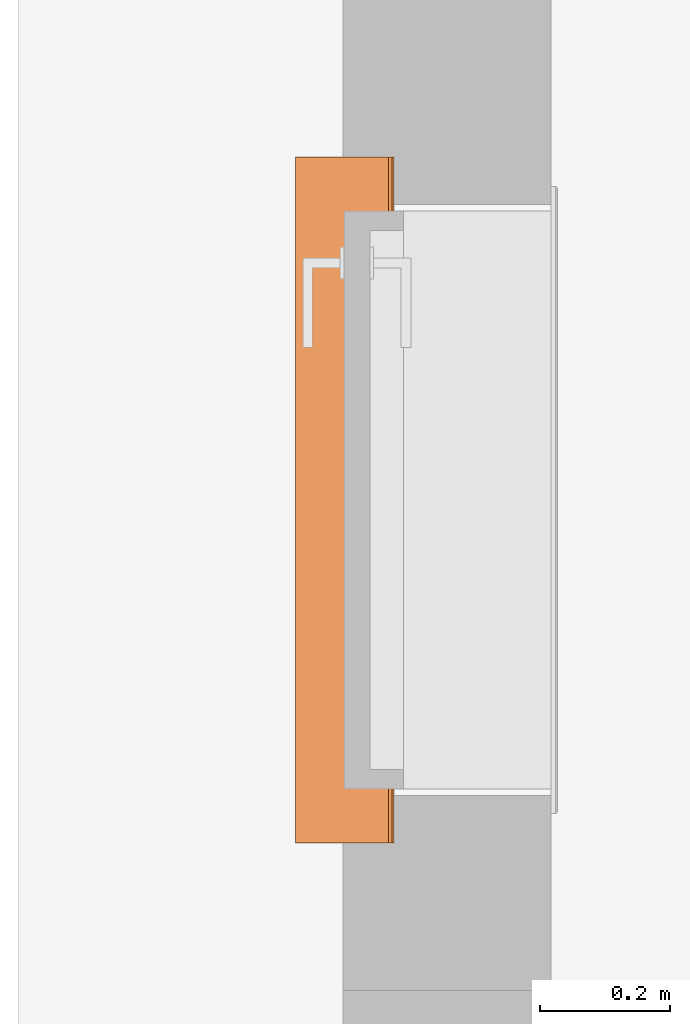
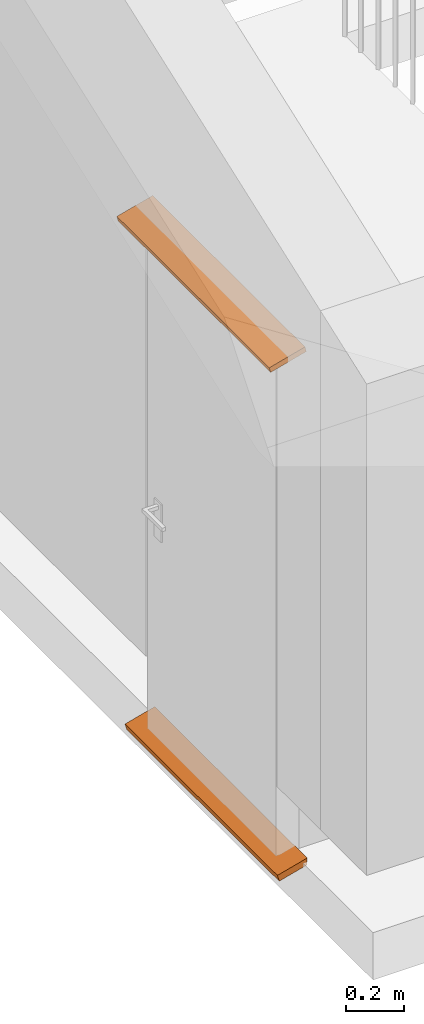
# One storey, part 3 of 3: 1 proxy.
"""IFC2X3 building model written with IfcOpenShell, lengths in millimetres."""

import ifcopenshell
import ifcopenshell.guid

model = None  # the IFC model being written
_history = None  # IfcOwnerHistory: only IFC2X3 demands one
_inside = {}  # id of a spatial element -> (the spatial element, [elements in it])
_under = {}  # id of a project, library or spatial element -> (it, [spatial elements below it])
_declared = {}  # id of a project -> (the project, [libraries it declares])
_typed = {}  # id of a type object -> (the type object, [elements of that type])
_made_of = {}  # id of a material, layer set ... -> (it, [elements and type objects made of it])


def new_model(schema):
    """Start an empty IFC model of exactly this schema.

    Asked for "IFC4X3", IfcOpenShell would pick the latest addendum, in which some entities
    have other attributes; the version numbers below select the first issue.
    IFC2X3 requires an IfcOwnerHistory on every rooted entity: one is made here for all.
    """
    global model, _history
    if schema == "IFC4X3":
        model = ifcopenshell.file(schema_version=(4, 3, 0, 0))
    else:
        model = ifcopenshell.file(schema=schema)
    _inside.clear()
    _under.clear()
    _declared.clear()
    _typed.clear()
    _made_of.clear()
    _history = None
    if model.schema == "IFC2X3":
        org = make("IfcOrganization", Name="unknown")
        user = make(
            "IfcPersonAndOrganization",
            ThePerson=make("IfcPerson", FamilyName="unknown"),
            TheOrganization=org,
        )
        app = make(
            "IfcApplication",
            ApplicationDeveloper=org,
            Version="unknown",
            ApplicationFullName="unknown",
            ApplicationIdentifier="unknown",
        )
        _history = make(
            "IfcOwnerHistory",
            OwningUser=user,
            OwningApplication=app,
            ChangeAction="ADDED",
            CreationDate=0,
        )
    return model


def make(cls, **values):
    """One entity of the class cls with the attributes given. An attribute that is None is left unset."""
    return model.create_entity(
        cls, **{name: value for name, value in values.items() if value is not None}
    )


def entity(cls, *values):
    """Any entity or typed value of the class cls, its attributes in the order of the schema. None: left unset."""
    e = model.create_entity(cls)
    for i, value in enumerate(values):
        if value is not None:
            e[i] = value
    return e


def rooted(cls, **values):
    """An entity with a GlobalId (a new one), such as an element, a storey or a relation."""
    return make(cls, GlobalId=ifcopenshell.guid.new(), OwnerHistory=_history, **values)


def si_unit(unit_type, name, prefix=None):
    """IfcSIUnit, for example si_unit("LENGTHUNIT", "METRE", prefix="MILLI")."""
    return make("IfcSIUnit", UnitType=unit_type, Prefix=prefix, Name=name)


def converted_unit(unit_type, name, factor, base, dimensions=None, offset=None):
    """IfcConversionBasedUnit, such as the inch: factor (a typed value) times the base unit."""
    return make(
        "IfcConversionBasedUnit"
        if offset is None
        else "IfcConversionBasedUnitWithOffset",
        ConversionOffset=offset,
        Dimensions=None
        if dimensions is None
        else entity("IfcDimensionalExponents", *dimensions),
        UnitType=unit_type,
        Name=name,
        ConversionFactor=make(
            "IfcMeasureWithUnit", ValueComponent=factor, UnitComponent=base
        ),
    )


def derived_unit(unit_type, elements):
    """IfcDerivedUnit: a product of units, each with its exponent."""
    return make(
        "IfcDerivedUnit",
        Elements=[
            make("IfcDerivedUnitElement", Unit=unit, Exponent=power)
            for unit, power in elements
        ],
        UnitType=unit_type,
    )


def assignment(units):
    """IfcUnitAssignment: the units of a project."""
    return None if units is None else make("IfcUnitAssignment", Units=units)


def point(xyz):
    """IfcCartesianPoint."""
    return None if xyz is None else make("IfcCartesianPoint", Coordinates=xyz)


def direction(xyz):
    """IfcDirection."""
    return None if xyz is None else make("IfcDirection", DirectionRatios=xyz)


def frame(location, z_axis=None, x_axis=None):
    """IfcAxis2Placement3D, a coordinate frame: its origin and axes. An axis left out is left unset."""
    return make(
        "IfcAxis2Placement3D",
        Location=point(location),
        Axis=direction(z_axis),
        RefDirection=direction(x_axis),
    )


def frame_2d(location, x_axis=None):
    """IfcAxis2Placement2D, a coordinate frame in the plane: its origin and x axis."""
    return make(
        "IfcAxis2Placement2D", Location=point(location), RefDirection=direction(x_axis)
    )


def origin():
    """The frame at (0, 0, 0) with its axes left unset."""
    return frame((0.0, 0.0, 0.0))


def place(relative_to, where):
    """IfcLocalPlacement: puts the frame where relative to a parent placement (None: the world)."""
    return make(
        "IfcLocalPlacement", PlacementRelTo=relative_to, RelativePlacement=where
    )


def context(
    kind, dimensions, precision=None, world=None, true_north=None, identifier=None
):
    """IfcGeometricRepresentationContext, for example the 3D "Model" context."""
    return make(
        "IfcGeometricRepresentationContext",
        ContextIdentifier=identifier,
        ContextType=kind,
        CoordinateSpaceDimension=dimensions,
        Precision=precision,
        WorldCoordinateSystem=world,
        TrueNorth=true_north,
    )


def subcontext(parent, identifier, kind, view, scale=None):
    """IfcGeometricRepresentationSubContext, for example "Body" below "Model"."""
    return make(
        "IfcGeometricRepresentationSubContext",
        ContextIdentifier=identifier,
        ContextType=kind,
        ParentContext=parent,
        TargetScale=scale,
        TargetView=view,
    )


def project(units=None, contexts=None):
    """IfcProject with its units and contexts."""
    return rooted(
        "IfcProject",
        Name="project",
        RepresentationContexts=contexts,
        UnitsInContext=assignment(units),
    )


def spatial(cls, under=None, at=None, **own):
    """A site, building, storey or space (cls), placed at a placement, below another one or the project."""
    s = rooted(cls, ObjectPlacement=at, **own)
    if under is not None:
        _under.setdefault(under.id(), (under, []))[1].append(s)
    return s


def polyline(points):
    """IfcPolyline through the points."""
    return make("IfcPolyline", Points=[point(p) for p in points])


def profile(cls, at=None, kind="AREA", **sizes):
    """A parametric profile (cls). Its sizes go by their IFC names, for example OverallWidth=200.0."""
    return make(cls, ProfileType=kind, Position=at, **sizes)


def rectangle(**sizes):
    """IfcRectangleProfileDef."""
    return profile("IfcRectangleProfileDef", **sizes)


def outline(outer, holes=None, kind="AREA"):
    """IfcArbitraryClosedProfileDef: a profile drawn as a closed curve; with holes, ...WithVoids."""
    if holes is None:
        return make("IfcArbitraryClosedProfileDef", ProfileType=kind, OuterCurve=outer)
    return make(
        "IfcArbitraryProfileDefWithVoids",
        ProfileType=kind,
        OuterCurve=outer,
        InnerCurves=holes,
    )


def extrude(swept, where, along, depth):
    """IfcExtrudedAreaSolid: the profile swept, set in the frame where, extruded along a direction by depth."""
    return make(
        "IfcExtrudedAreaSolid",
        SweptArea=swept,
        Position=where,
        ExtrudedDirection=direction(along),
        Depth=depth,
    )


def shape(context_of_items, identifier, shape_type, items):
    """IfcShapeRepresentation: the items that make up one representation, for example the "Body"."""
    return make(
        "IfcShapeRepresentation",
        ContextOfItems=context_of_items,
        RepresentationIdentifier=identifier,
        RepresentationType=shape_type,
        Items=items,
    )


def source(mapping_origin, context_of_items, identifier, shape_type, items):
    """IfcRepresentationMap: a shape defined once, which mapped items show again and again."""
    return make(
        "IfcRepresentationMap",
        MappingOrigin=mapping_origin,
        MappedRepresentation=shape(context_of_items, identifier, shape_type, items),
    )


def transform(
    local_origin,
    x_axis=None,
    y_axis=None,
    z_axis=None,
    scale=None,
    scale2=None,
    scale3=None,
    uniform=True,
):
    """IfcCartesianTransformationOperator3D, or its non-uniform kind. x_axis, y_axis, z_axis: its Axis1, 2, 3."""
    if uniform:
        return make(
            "IfcCartesianTransformationOperator3D",
            Axis1=direction(x_axis),
            Axis2=direction(y_axis),
            LocalOrigin=point(local_origin),
            Scale=scale,
            Axis3=direction(z_axis),
        )
    return make(
        "IfcCartesianTransformationOperator3DnonUniform",
        Axis1=direction(x_axis),
        Axis2=direction(y_axis),
        LocalOrigin=point(local_origin),
        Scale=scale,
        Axis3=direction(z_axis),
        Scale2=scale2,
        Scale3=scale3,
    )


def mapped(mapping_source, mapping_target):
    """IfcMappedItem: shows the shape of a source again, moved by a transform."""
    return make(
        "IfcMappedItem", MappingSource=mapping_source, MappingTarget=mapping_target
    )


def material(Name=None, Category=None):
    """IfcMaterial."""
    return make("IfcMaterial", Name=Name, Category=Category)


def made_of(thing, what):
    """Note that an element or type object is made of a material, layer set ...; save() writes the relation."""
    if what is not None:
        _made_of.setdefault(what.id(), (what, []))[1].append(thing)
    return thing


def type_object(cls, material=None, **own):
    """A type object (cls), such as IfcWallType, which elements share."""
    return made_of(rooted(cls, **own), material)


def type_shapes(of_type, sources):
    """Give a type object the sources (RepresentationMaps) that its elements show as mapped items."""
    of_type.RepresentationMaps = sources


def element(
    cls,
    number,
    at=None,
    inside=None,
    cuts=None,
    type_object=None,
    material=None,
    context=None,
    identifier="Body",
    shape_type=None,
    held_by="IfcProductDefinitionShape",
    body=None,
    shapes=None,
    **own,
):
    """One element of the class cls, such as IfcWall. Its Tag is "e" and its number.

    at: its placement. inside: the storey or other place that contains it. cuts: it is an
    opening in that element (IfcRelVoidsElement). A single representation is given by context,
    identifier, shape_type and body (its items); several are given by shapes. held_by: the class
    of the entity that holds the representations. save() writes the other relations.
    """
    e = rooted(cls, Tag="e%d" % number, ObjectPlacement=at, **own)
    if body is not None:
        shapes = [shape(context, identifier, shape_type, body)]
    if shapes is not None:
        e.Representation = make(held_by, Representations=shapes)
    if inside is not None:
        _inside.setdefault(inside.id(), (inside, []))[1].append(e)
    if cuts is not None:
        rooted(
            "IfcRelVoidsElement", RelatingBuildingElement=cuts, RelatedOpeningElement=e
        )
    if type_object is not None:
        _typed.setdefault(type_object.id(), (type_object, []))[1].append(e)
    return made_of(e, material)


def aggregate(whole, parts):
    """IfcRelAggregates: a whole, such as a stair, and the parts it consists of."""
    return rooted("IfcRelAggregates", RelatingObject=whole, RelatedObjects=parts)


def save(model, path):
    """Write the relations noted so far, then the file.

    IfcRelAggregates (storeys below a building ...), IfcRelContainedInSpatialStructure (elements
    in a storey), IfcRelDefinesByType, IfcRelAssociatesMaterial and IfcRelDeclares: one each for
    every whole, place, type object, material and project.
    """
    for whole, parts in _under.values():
        aggregate(whole, parts)
    for where, things in _inside.values():
        rooted(
            "IfcRelContainedInSpatialStructure",
            RelatedElements=things,
            RelatingStructure=where,
        )
    for kind, things in _typed.values():
        rooted("IfcRelDefinesByType", RelatedObjects=things, RelatingType=kind)
    for what, things in _made_of.values():
        rooted("IfcRelAssociatesMaterial", RelatedObjects=things, RelatingMaterial=what)
    for by, libraries in _declared.values():
        rooted("IfcRelDeclares", RelatingContext=by, RelatedDefinitions=libraries)
    model.write(path)


model = new_model("IFC2X3")

# Units and contexts
model_context = context("Model", 3, precision=0.01, world=origin(), true_north=direction((6.123031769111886e-17, 1.0)))
body_context = subcontext(model_context, "Body", "Model", "MODEL_VIEW")
ifc_project = project(units=[si_unit("LENGTHUNIT", "METRE", prefix="MILLI"), si_unit("AREAUNIT", "SQUARE_METRE"), si_unit("VOLUMEUNIT", "CUBIC_METRE"), converted_unit("PLANEANGLEUNIT", "DEGREE", entity("IfcRatioMeasure", 0.017453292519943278), si_unit("PLANEANGLEUNIT", "RADIAN"), dimensions=[0, 0, 0, 0, 0, 0, 0]), si_unit("MASSUNIT", "GRAM", prefix="KILO"), derived_unit("MASSDENSITYUNIT", [(si_unit("MASSUNIT", "GRAM", prefix="KILO"), 1), (si_unit("LENGTHUNIT", "METRE"), -3)]), derived_unit("IONCONCENTRATIONUNIT", [(si_unit("MASSUNIT", "GRAM", prefix="KILO"), 1), (si_unit("LENGTHUNIT", "METRE"), -3)]), derived_unit("MOMENTOFINERTIAUNIT", [(si_unit("LENGTHUNIT", "METRE"), 4)]), si_unit("TIMEUNIT", "SECOND"), si_unit("FREQUENCYUNIT", "HERTZ"), si_unit("THERMODYNAMICTEMPERATUREUNIT", "DEGREE_CELSIUS"), derived_unit("THERMALTRANSMITTANCEUNIT", [(si_unit("MASSUNIT", "GRAM", prefix="KILO"), 1), (si_unit("THERMODYNAMICTEMPERATUREUNIT", "KELVIN"), -1), (si_unit("TIMEUNIT", "SECOND"), -3)]), derived_unit("THERMALCONDUCTANCEUNIT", [(si_unit("MASSUNIT", "GRAM", prefix="KILO"), 1), (si_unit("THERMODYNAMICTEMPERATUREUNIT", "KELVIN"), -1), (si_unit("TIMEUNIT", "SECOND"), -3), (si_unit("LENGTHUNIT", "METRE"), 1)]), derived_unit("VOLUMETRICFLOWRATEUNIT", [(si_unit("LENGTHUNIT", "METRE"), 3), (si_unit("TIMEUNIT", "SECOND"), -1)]), derived_unit("MASSFLOWRATEUNIT", [(si_unit("MASSUNIT", "GRAM", prefix="KILO"), 1), (si_unit("TIMEUNIT", "SECOND"), -1)]), derived_unit("ROTATIONALFREQUENCYUNIT", [(si_unit("TIMEUNIT", "SECOND"), -1)]), si_unit("ELECTRICCURRENTUNIT", "AMPERE"), si_unit("ELECTRICVOLTAGEUNIT", "VOLT"), si_unit("POWERUNIT", "WATT"), si_unit("FORCEUNIT", "NEWTON", prefix="KILO"), si_unit("ILLUMINANCEUNIT", "LUX"), si_unit("LUMINOUSFLUXUNIT", "LUMEN"), si_unit("LUMINOUSINTENSITYUNIT", "CANDELA"), derived_unit("USERDEFINED", [(si_unit("MASSUNIT", "GRAM", prefix="KILO"), -1), (si_unit("LENGTHUNIT", "METRE"), -2), (si_unit("TIMEUNIT", "SECOND"), 3), (si_unit("LUMINOUSFLUXUNIT", "LUMEN"), 1)]), derived_unit("USERDEFINED", [(si_unit("MASSUNIT", "GRAM", prefix="KILO"), 1), (si_unit("TIMEUNIT", "SECOND"), -3), (si_unit("LENGTHUNIT", "METRE"), 3), (si_unit("ELECTRICCURRENTUNIT", "AMPERE"), -2)]), derived_unit("SOUNDPOWERUNIT", [(si_unit("MASSUNIT", "GRAM", prefix="KILO"), 1), (si_unit("TIMEUNIT", "SECOND"), -3), (si_unit("LENGTHUNIT", "METRE"), 2)]), derived_unit("SOUNDPRESSUREUNIT", [(si_unit("MASSUNIT", "GRAM", prefix="KILO"), 1), (si_unit("LENGTHUNIT", "METRE"), -1), (si_unit("TIMEUNIT", "SECOND"), -2)]), derived_unit("LINEARVELOCITYUNIT", [(si_unit("LENGTHUNIT", "METRE"), 1), (si_unit("TIMEUNIT", "SECOND"), -1)]), si_unit("PRESSUREUNIT", "PASCAL"), derived_unit("USERDEFINED", [(si_unit("MASSUNIT", "GRAM", prefix="KILO"), 1), (si_unit("LENGTHUNIT", "METRE"), -2), (si_unit("TIMEUNIT", "SECOND"), -2)]), derived_unit("LINEARFORCEUNIT", [(si_unit("MASSUNIT", "GRAM", prefix="KILO"), 1), (si_unit("TIMEUNIT", "SECOND"), -2)]), derived_unit("PLANARFORCEUNIT", [(si_unit("MASSUNIT", "GRAM", prefix="KILO"), 1), (si_unit("LENGTHUNIT", "METRE"), -1), (si_unit("TIMEUNIT", "SECOND"), -2)]), derived_unit("SPECIFICHEATCAPACITYUNIT", [(si_unit("THERMODYNAMICTEMPERATUREUNIT", "KELVIN"), -1), (si_unit("LENGTHUNIT", "METRE"), 2), (si_unit("TIMEUNIT", "SECOND"), -2)]), derived_unit("HEATINGVALUEUNIT", [(si_unit("LENGTHUNIT", "METRE"), 2), (si_unit("TIMEUNIT", "SECOND"), -2)]), derived_unit("VAPORPERMEABILITYUNIT", [(si_unit("LENGTHUNIT", "METRE"), -1), (si_unit("TIMEUNIT", "SECOND"), 1)]), derived_unit("DYNAMICVISCOSITYUNIT", [(si_unit("MASSUNIT", "GRAM", prefix="KILO"), 1), (si_unit("TIMEUNIT", "SECOND"), -1), (si_unit("LENGTHUNIT", "METRE"), -1)]), derived_unit("THERMALEXPANSIONCOEFFICIENTUNIT", [(si_unit("THERMODYNAMICTEMPERATUREUNIT", "KELVIN"), -1)]), derived_unit("MODULUSOFELASTICITYUNIT", [(si_unit("MASSUNIT", "GRAM", prefix="KILO"), 1), (si_unit("LENGTHUNIT", "METRE"), -1), (si_unit("TIMEUNIT", "SECOND"), -2)]), derived_unit("ISOTHERMALMOISTURECAPACITYUNIT", [(si_unit("LENGTHUNIT", "METRE"), 3), (si_unit("MASSUNIT", "GRAM", prefix="KILO"), -1)]), derived_unit("MOISTUREDIFFUSIVITYUNIT", [(si_unit("TIMEUNIT", "SECOND"), -1), (si_unit("LENGTHUNIT", "METRE"), 2)])], contexts=[model_context])

# Site, building, storey
site_placement = place(None, origin())
site = spatial("IfcSite", under=ifc_project, at=site_placement, Name="IFCSITE", CompositionType="ELEMENT")
building_placement = place(site_placement, origin())
building = spatial("IfcBuilding", under=site, at=building_placement, CompositionType="ELEMENT")
storey_placement = place(building_placement, frame((0.0, 0.0, 4200.0)))
storey = spatial("IfcBuildingStorey", under=building, at=storey_placement, Name="Plan 1 pumpehus", CompositionType="ELEMENT", Elevation=4200.0)

# Proxy
ifc_material = material(Name="Hvit(1)")
building_element_proxy_type = type_object("IfcBuildingElementProxyType", Name="Vindusomramming - Kun Vannbrett:Vindusomramming - Kun Vannbrett", PredefinedType="NOTDEFINED", material=ifc_material)
shared_shape = source(origin(), body_context, "Body", "SweptSolid", [
    extrude(outline(polyline([(-14.0, -59.62435565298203), (14.0, -59.624355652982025), (14.0, 55.87306695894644), (-14.0, 63.37564434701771), (-14.0, -59.62435565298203)])), frame((-424.0, -139.59270500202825, 865.0742146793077), z_axis=(1.0, 0.0, 0.0), x_axis=(0.0, 0.2588190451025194, -0.9659258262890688)), (0.0, 0.0, 1.0), 1056.0000000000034),
    extrude(rectangle(XDim=22.00000000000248, YDim=148.0000000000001, at=frame_2d((2.7977620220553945e-13, 0.0), x_axis=(1.0, 0.0))), frame((-424.0, -159.10525544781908, 3029.5367494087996), z_axis=(1.0, 0.0, 0.0), x_axis=(0.0, 0.25881904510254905, -0.9659258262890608)), (0.0, 0.0, 1.0), 1055.9999999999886),
])
type_shapes(building_element_proxy_type, [shared_shape])
proxy_placement = place(storey_placement, frame((-60128.513378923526, -13610.925170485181, -880.0), z_axis=(0.0, 0.0, 1.0), x_axis=(0.0, -1.0, 0.0)))
element("IfcBuildingElementProxy", 1, at=proxy_placement, inside=storey, type_object=building_element_proxy_type, material=ifc_material, Name="Vindusomramming - Kun Vannbrett:Vindusomramming - Kun Vannbrett", ObjectType="Vindusomramming - Kun Vannbrett:Vindusomramming - Kun Vannbrett", context=body_context, shape_type="MappedRepresentation", body=[
    mapped(shared_shape, transform((0.0, 0.0, 0.0), scale=1.0)),
])

save(model, "model.ifc")
